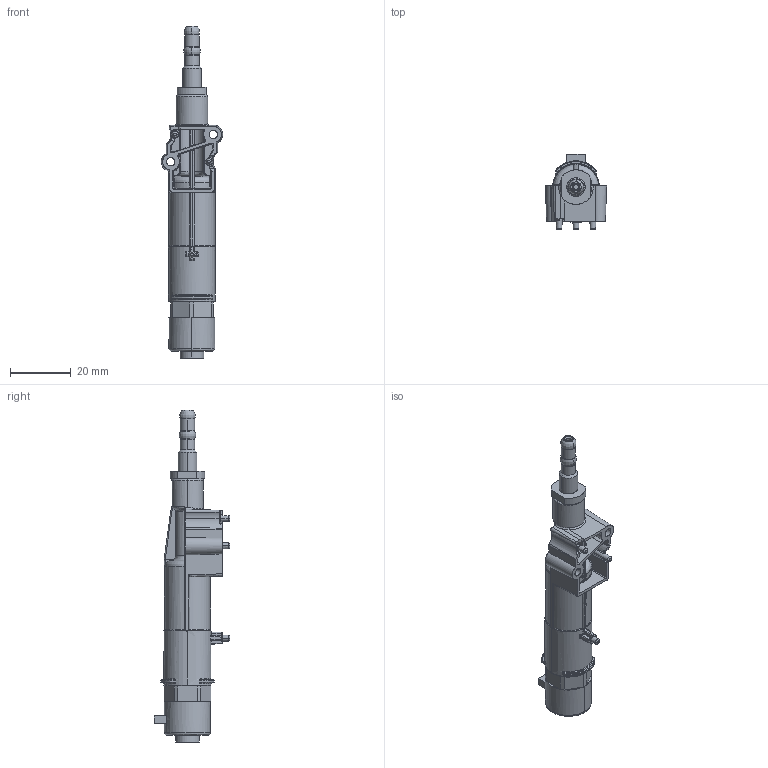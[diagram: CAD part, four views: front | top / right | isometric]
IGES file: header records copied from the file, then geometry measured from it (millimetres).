
Start section: SolidWorks IGES file using analytic representation for surfaces
Global section: file name: C:\SWPDM\GDT\TriContinent\MOD\Assembly Web\MOD91027\MOD91027 RA.IGS; native system: SolidWorks 2015; preprocessor: SolidWorks 2015; author: RAW2042; date: 170523.110850; units: inch
Bounding box: 20.24 x 24.98 x 109.57 mm (x, y, z)
Surface area: 6818.4 mm2 (no closed solid volume)
Topology: 0 solids, 0 shells, 406 faces, 3793 edges, 3766 vertices
Faces by surface type: bspline 246, revolution 160
